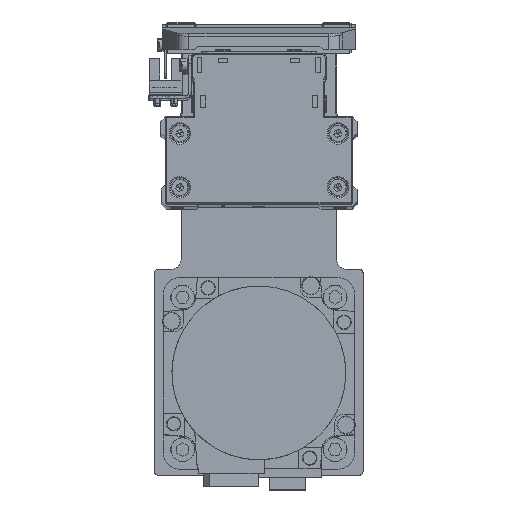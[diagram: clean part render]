
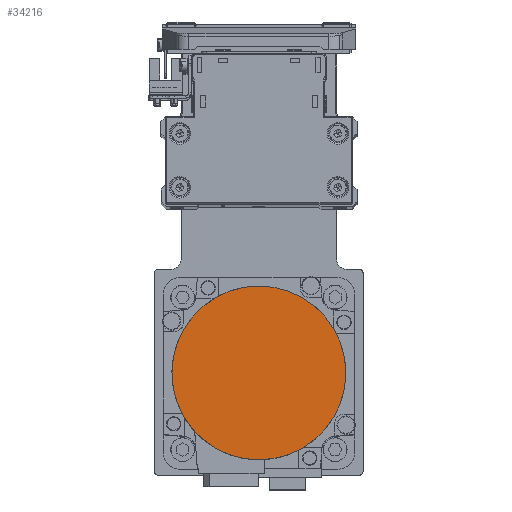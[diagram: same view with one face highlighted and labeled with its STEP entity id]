
A CAD part, top view. The second image highlights one B-rep face of the part: STEP entity #34216.
In plain terms, the highlighted planar face has unit normal (0, 0, 1) as drawn and (0, 0, -1) by its records, which use the part's own axes.
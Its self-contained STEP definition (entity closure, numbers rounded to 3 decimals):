
#726 = CARTESIAN_POINT ( 'NONE',  ( 0., 0., -122.2 ) ) ;
#1505 = AXIS2_PLACEMENT_3D ( 'NONE', #726, #12925, #25139 ) ;
#1971 = DIRECTION ( 'NONE',  ( 0., 0., 1. ) ) ;
#4428 = CARTESIAN_POINT ( 'NONE',  ( 0., 36.3, -122.2 ) ) ;
#5710 = CARTESIAN_POINT ( 'NONE',  ( 0., -36.3, -122.2 ) ) ;
#8685 = VERTEX_POINT ( 'NONE', #5710 ) ;
#9330 = DIRECTION ( 'NONE',  ( 0., 0., 1. ) ) ;
#12298 = FACE_OUTER_BOUND ( 'NONE', #23842, .T. ) ;
#12925 = DIRECTION ( 'NONE',  ( 0., 0., 1. ) ) ;
#14147 = DIRECTION ( 'NONE',  ( 0., 1., 0. ) ) ;
#16325 = EDGE_CURVE ( 'NONE', #31702, #8685, #34664, .T. ) ;
#17440 = AXIS2_PLACEMENT_3D ( 'NONE', #29362, #1971, #14147 ) ;
#18739 = CIRCLE ( 'NONE', #1505, 36.3 ) ;
#21522 = DIRECTION ( 'NONE',  ( 1., 0., 0. ) ) ;
#23842 = EDGE_LOOP ( 'NONE', ( #26157, #29391 ) ) ;
#24514 = PLANE ( 'NONE',  #25851 ) ;
#25139 = DIRECTION ( 'NONE',  ( 0., -1., 0. ) ) ;
#25851 = AXIS2_PLACEMENT_3D ( 'NONE', #36707, #9330, #21522 ) ;
#26157 = ORIENTED_EDGE ( 'NONE', *, *, #16325, .F. ) ;
#26654 = EDGE_CURVE ( 'NONE', #8685, #31702, #18739, .T. ) ;
#29362 = CARTESIAN_POINT ( 'NONE',  ( 0., 0., -122.2 ) ) ;
#29391 = ORIENTED_EDGE ( 'NONE', *, *, #26654, .F. ) ;
#31702 = VERTEX_POINT ( 'NONE', #4428 ) ;
#34216 = ADVANCED_FACE ( 'NONE', ( #12298 ), #24514, .F. ) ;
#34664 = CIRCLE ( 'NONE', #17440, 36.3 ) ;
#36707 = CARTESIAN_POINT ( 'NONE',  ( 0., 0., -122.2 ) ) ;
